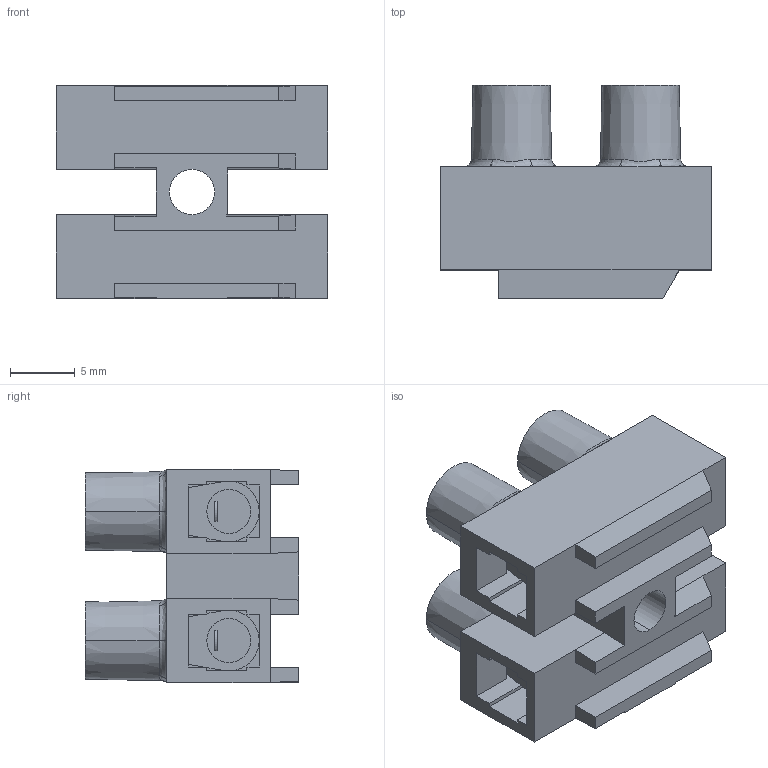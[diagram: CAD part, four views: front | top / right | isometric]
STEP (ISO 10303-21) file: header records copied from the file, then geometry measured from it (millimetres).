
FILE_DESCRIPTION (( 'STEP AP214' ), '1' );
FILE_NAME ('323-FU-16.5-HDS-02.STEP', '2008-03-12T16:52:37', ( 'weco' ), ( 'weco' ), 'SwSTEP 2.0', 'SolidWorks 2007', '' );
FILE_SCHEMA (( 'AUTOMOTIVE_DESIGN' ));
Length unit declared in the file: millimetre
Products named in the file (1): 323-FU-16.5-HDS-02
Bounding box: 21 x 16.5 x 16.5 mm (x, y, z)
Volume: 2614 mm3; surface area: 3241.9 mm2
Topology: 1 solids, 1 shells, 399 faces, 1066 edges, 693 vertices
Faces by surface type: plane 281, cylinder 60, cone 30, bspline 28
Entity records: 15770 total; most frequent: CARTESIAN_POINT 5990, ORIENTED_EDGE 2132, DIRECTION 1890, EDGE_CURVE 1066, LINE 766, VECTOR 766, VERTEX_POINT 693, AXIS2_PLACEMENT_3D 562
